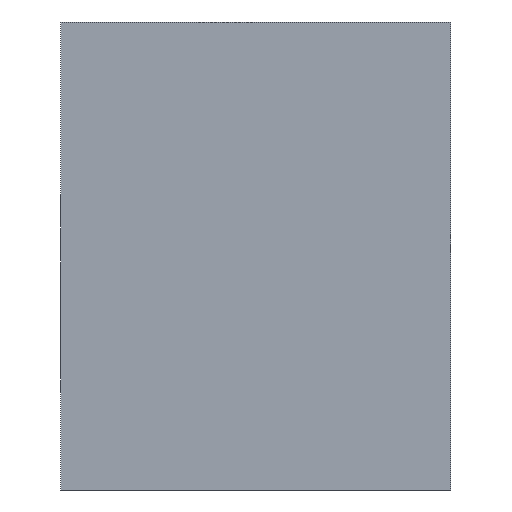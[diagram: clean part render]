
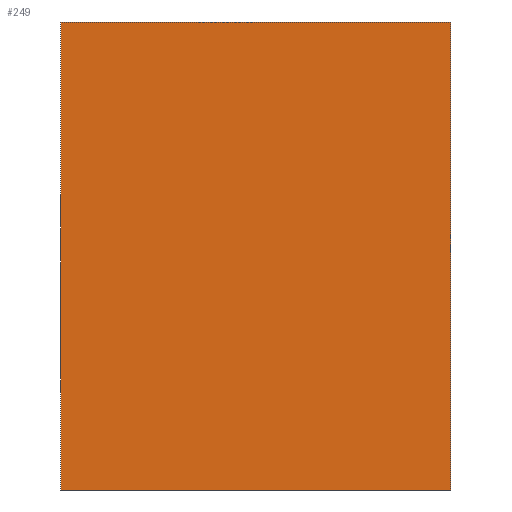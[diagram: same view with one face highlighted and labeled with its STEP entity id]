
A CAD part, left-side view. The second image highlights one B-rep face of the part: STEP entity #249.
In plain terms, the highlighted planar face has unit normal (-1, 0, 0).
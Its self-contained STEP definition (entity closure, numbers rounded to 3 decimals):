
#84 = CARTESIAN_POINT ( 'NONE',  ( 6.55, 138.5, -6. ) ) ;
#102 = LINE ( 'NONE', #563, #333 ) ;
#107 = CARTESIAN_POINT ( 'NONE',  ( 6.55, 138.5, -6. ) ) ;
#124 = EDGE_LOOP ( 'NONE', ( #343, #295, #286, #127 ) ) ;
#127 = ORIENTED_EDGE ( 'NONE', *, *, #600, .T. ) ;
#132 = DIRECTION ( 'NONE',  ( 0., -1., 0. ) ) ;
#137 = AXIS2_PLACEMENT_3D ( 'NONE', #84, #420, #422 ) ;
#143 = VERTEX_POINT ( 'NONE', #107 ) ;
#150 = CARTESIAN_POINT ( 'NONE',  ( 6.55, 138.5, 0. ) ) ;
#166 = LINE ( 'NONE', #450, #416 ) ;
#178 = VERTEX_POINT ( 'NONE', #353 ) ;
#181 = LINE ( 'NONE', #558, #431 ) ;
#211 = EDGE_CURVE ( 'NONE', #329, #178, #166, .T. ) ;
#223 = CARTESIAN_POINT ( 'NONE',  ( 6.55, 138.5, -6. ) ) ;
#226 = VERTEX_POINT ( 'NONE', #287 ) ;
#249 = ADVANCED_FACE ( 'NONE', ( #438 ), #374, .T. ) ;
#286 = ORIENTED_EDGE ( 'NONE', *, *, #528, .T. ) ;
#287 = CARTESIAN_POINT ( 'NONE',  ( 6.55, 133.5, -6. ) ) ;
#295 = ORIENTED_EDGE ( 'NONE', *, *, #424, .F. ) ;
#326 = VECTOR ( 'NONE', #591, 1000. ) ;
#329 = VERTEX_POINT ( 'NONE', #150 ) ;
#333 = VECTOR ( 'NONE', #380, 1000. ) ;
#343 = ORIENTED_EDGE ( 'NONE', *, *, #211, .F. ) ;
#353 = CARTESIAN_POINT ( 'NONE',  ( 6.55, 133.5, 0. ) ) ;
#374 = PLANE ( 'NONE',  #137 ) ;
#380 = DIRECTION ( 'NONE',  ( 0., 0., 1. ) ) ;
#416 = VECTOR ( 'NONE', #568, 1000. ) ;
#420 = DIRECTION ( 'NONE',  ( -1., 0., 0. ) ) ;
#422 = DIRECTION ( 'NONE',  ( 0., -1., 0. ) ) ;
#424 = EDGE_CURVE ( 'NONE', #143, #329, #593, .T. ) ;
#431 = VECTOR ( 'NONE', #132, 1000. ) ;
#438 = FACE_OUTER_BOUND ( 'NONE', #124, .T. ) ;
#450 = CARTESIAN_POINT ( 'NONE',  ( 6.55, 138.5, 0. ) ) ;
#528 = EDGE_CURVE ( 'NONE', #143, #226, #181, .T. ) ;
#558 = CARTESIAN_POINT ( 'NONE',  ( 6.55, 138.5, -6. ) ) ;
#563 = CARTESIAN_POINT ( 'NONE',  ( 6.55, 133.5, -6. ) ) ;
#568 = DIRECTION ( 'NONE',  ( 0., -1., 0. ) ) ;
#591 = DIRECTION ( 'NONE',  ( 0., 0., 1. ) ) ;
#593 = LINE ( 'NONE', #223, #326 ) ;
#600 = EDGE_CURVE ( 'NONE', #226, #178, #102, .T. ) ;
